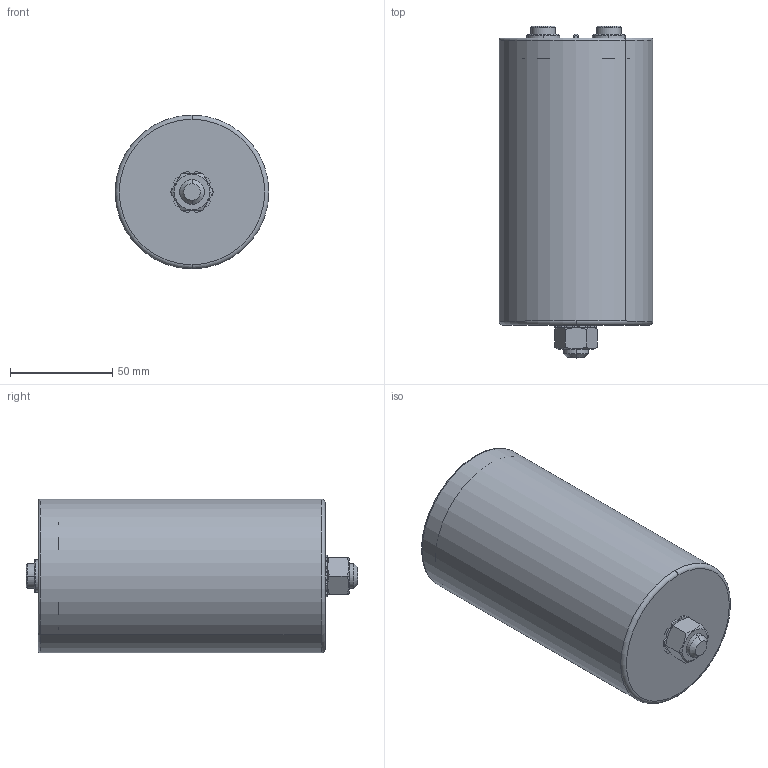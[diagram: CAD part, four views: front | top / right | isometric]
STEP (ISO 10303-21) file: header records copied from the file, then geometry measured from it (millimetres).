
FILE_DESCRIPTION (( 'STEP AP203' ), '1' );
FILE_NAME ('B25690Ax_75x140_146.STEP', '2021-08-30T06:58:51', ( '' ), ( '' ), 'SwSTEP 2.0', 'SolidWorks 2017', '' );
FILE_SCHEMA (( 'CONFIG_CONTROL_DESIGN' ));
Length unit declared in the file: millimetre
Products named in the file (1): B25690Ax_75x140_146
Bounding box: 75 x 162 x 75 mm (x, y, z)
Volume: 81488.7 mm3; surface area: 92945.6 mm2
Topology: 1 solids, 3 shells, 263 faces, 675 edges, 432 vertices
Faces by surface type: plane 145, cylinder 80, cone 28, torus 10
Entity records: 8308 total; most frequent: CARTESIAN_POINT 1807, DIRECTION 1389, ORIENTED_EDGE 1350, EDGE_CURVE 675, AXIS2_PLACEMENT_3D 534, VERTEX_POINT 432, LINE 321, VECTOR 321
